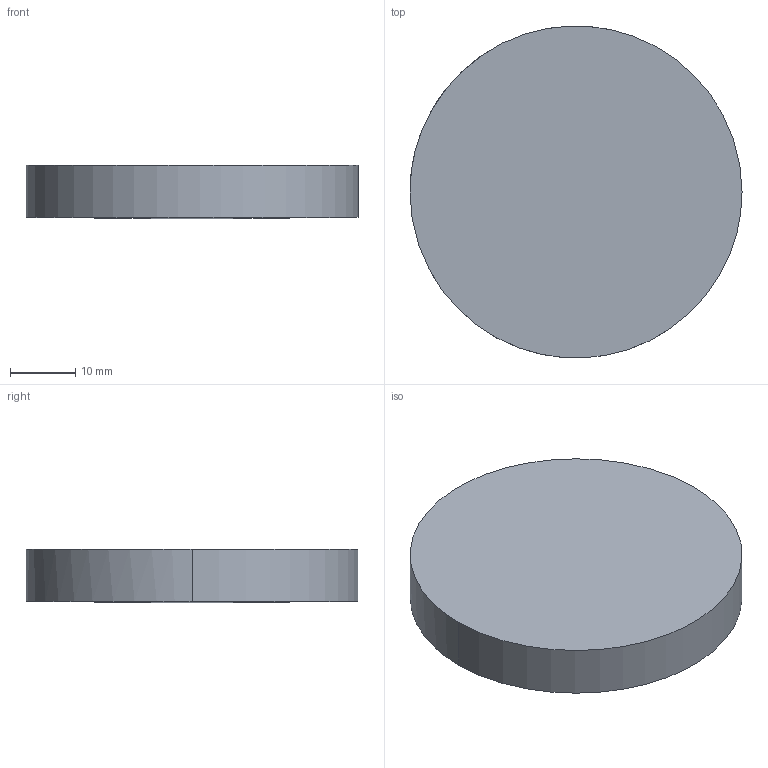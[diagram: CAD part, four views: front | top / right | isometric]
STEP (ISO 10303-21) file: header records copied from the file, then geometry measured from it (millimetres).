
FILE_DESCRIPTION ((), '1');
FILE_NAME ('\\fileserver\Daten\Applikationen\Optikdesign\SPA-Design\aktuelle SPA-Designs\Linsenkataloge - 2016-Juni\Zemax\XFL\XFL50-005.STP', '2016-05-24T14:29:29', ('Unknown'), ('Unknown'), 'HarmonyWare STEP v2.0.1', 'HarmonyWare Translators', '');
FILE_SCHEMA (('CONFIG_CONTROL_DESIGN'));
Length unit declared in the file: millimetre
Products named in the file (1): NONE
Bounding box: 50.8 x 50.77 x 8.22 mm (x, y, z)
Volume: 16369.6 mm3; surface area: 5333.8 mm2
Topology: 1 solids, 1 shells, 4 faces, 9 edges, 6 vertices
Faces by surface type: cylinder 2, bspline 1, plane 1
Entity records: 265 total; most frequent: CARTESIAN_POINT 114, ORIENTED_EDGE 16, EDGE_CURVE 8, PERSON 8, ORGANIZATION 8, PERSON_AND_ORGANIZATION 8, VERTEX_POINT 6, DIRECTION 6
